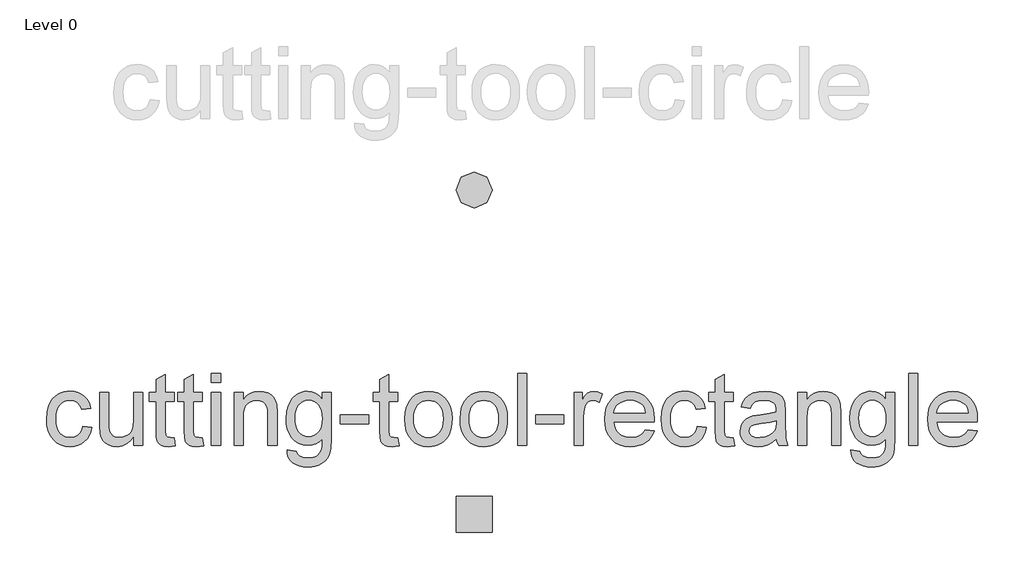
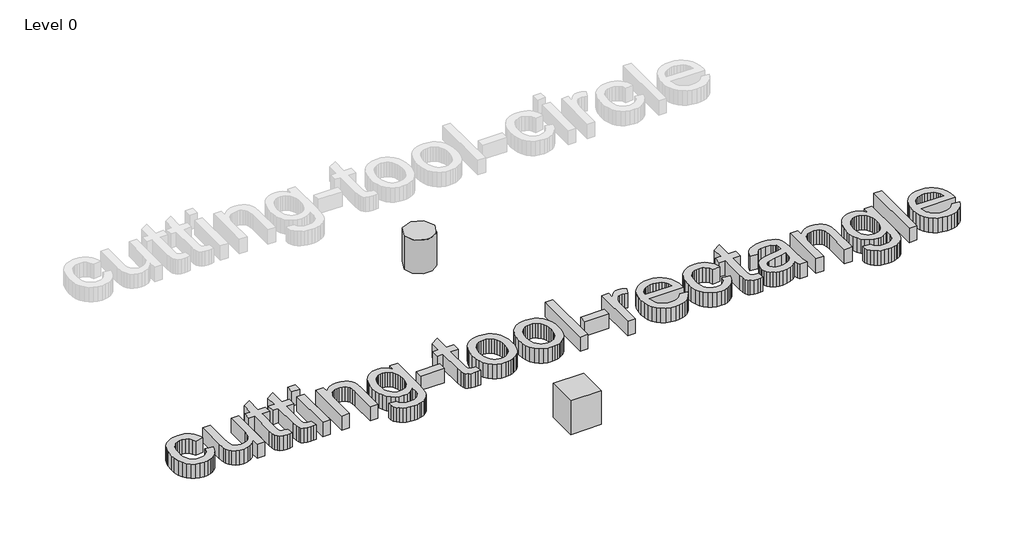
# One storey, part 4 of 5: 3 proxies.
"""IFC4 building model written with IfcOpenShell, lengths in millimetres."""

from ifc_helpers import new_model, si_unit, origin, origin_with_axes, place, context, project, spatial, polyline, outline, extrude, transform, mapped, element, save
from components import kingspan_ks_cutting_tool_circle_cutting_tool_circle_f6fe257a, kingspan_ks_cutting_tool_rectangle_cutting_tool_rectangle_f435e5aa

model = new_model("IFC4")

# Units and contexts
model_context = context("Model", 3, world=origin())
ifc_project = project(units=[si_unit("LENGTHUNIT", "METRE", prefix="MILLI")], contexts=[model_context])

# Site, building, storey
site = spatial("IfcSite", under=ifc_project)
building = spatial("IfcBuilding", under=site)
storey = spatial("IfcBuildingStorey", under=building, Name="Level 0", Elevation=0.0)

# Proxies
placement = place(None, origin())
element("IfcBuildingElementProxy", 1, Name="24\" Arial", ObjectType="24\" Arial", at=placement, inside=storey, context=model_context, shape_type="SweptSolid", body=[
    extrude(outline(polyline([(-271.9218938, 10407.1844456), (-195.7801203, 10397.666724), (-204.0616535, 10361.738254), (-217.0091011, 10329.9459034), (-234.622463, 10302.2896721), (-256.9017393, 10278.76956), (-282.9081702, 10259.9990142), (-311.7029962, 10246.5914814), (-343.2862172, 10238.5469618), (-377.6578332, 10235.8654552), (-420.362103, 10239.6065519), (-458.6514141, 10250.8298419), (-492.5257663, 10269.5353252), (-521.9851598, 10295.7230018), (-545.8305846, 10328.9002553), (-562.8630308, 10368.5744692), (-573.0824986, 10414.7456435), (-576.4889879, 10467.4137782), (-570.6705369, 10535.1717774), (-563.3974732, 10565.662877), (-553.2151841, 10593.8953766), (-540.0539595, 10619.3023026), (-523.8440898, 10641.3166814), (-504.5855748, 10659.9385128), (-482.2784146, 10675.167797), (-457.9310787, 10687.0091812), (-432.5520366, 10695.4673128), (-406.1412884, 10700.5421917), (-378.698834, 10702.233818), (-344.9174283, 10699.9101555), (-314.3612661, 10692.9391679), (-287.0303475, 10681.3208553), (-262.9246725, 10665.0552177), (-242.4532057, 10644.514041), (-226.0249117, 10620.0691113), (-213.6397904, 10591.7204285), (-205.297842, 10559.4679927), (-281.4396155, 10549.950271), (-295.2514655, 10583.1693504), (-316.7592858, 10606.9822439), (-344.7733612, 10621.3145944), (-378.1039764, 10626.0920445), (-403.9756349, 10623.740498), (-427.309854, 10616.6858586), (-448.1066335, 10604.9281263), (-466.3659736, 10588.467301), (-481.2327664, 10566.9223021), (-491.8519042, 10539.9120489), (-498.2233868, 10507.4365415), (-500.3472144, 10469.4957798), (-498.2698601, 10430.9833972), (-492.0377972, 10398.1314565), (-481.6510257, 10370.9399576), (-467.1095456, 10349.4089007), (-449.2126969, 10333.0456692), (-428.7598194, 10321.3576467), (-405.7509131, 10314.3448332), (-380.185978, 10312.0072288), (-340.7580724, 10317.844269), (-323.7070368, 10325.1405693), (-308.4312793, 10335.3553898), (-295.358354, 10348.6002661), (-284.9158146, 10364.9867342), (-277.1036612, 10384.5147941), (-271.9218938, 10407.1844456)])), origin_with_axes(), (0.0, 0.0, 1.0), 152.4),
    extrude(outline(polyline([(156.3755822, 10245.3831769), (156.3755822, 10322.2685224), (128.8262394, 10284.4671805), (96.7411073, 10257.466222), (60.1201859, 10241.2656469), (18.9634753, 10235.8654552), (-18.1221785, 10239.6576725), (-52.6425089, 10251.0343242), (-81.6046386, 10268.1364803), (-102.0156902, 10289.1052109), (-115.753183, 10314.5725522), (-124.6946364, 10345.1705403), (-129.1560685, 10415.9585953), (-129.1560685, 10692.7160963), (-53.0142949, 10692.7160963), (-53.0142949, 10451.7987661), (-51.8617583, 10403.6153), (-48.4041485, 10374.1698485), (-37.3063363, 10348.2749534), (-18.2894822, 10328.5888845), (7.3823413, 10316.1526427), (38.4450619, 10312.0072288), (71.2923553, 10316.2455892), (102.0204685, 10328.9606705), (127.3576847, 10348.9813468), (144.0322869, 10375.1364921), (153.2897584, 10410.9580736), (156.3755822, 10459.9780581), (156.3755822, 10692.7160963), (232.5173557, 10692.7160963), (232.5173557, 10245.3831769), (156.3755822, 10245.3831769)])), origin_with_axes(), (0.0, 0.0, 1.0), 152.4),
    extrude(outline(polyline([(499.0135631, 10308.8842263), (508.5312847, 10243.1524609), (478.3794399, 10237.6872067), (451.573669, 10235.8654552), (415.0271049, 10239.0256363), (387.7751908, 10248.5061794), (368.5166758, 10263.1173693), (355.9503089, 10281.6694909), (349.0350892, 10313.5315514), (346.730016, 10368.0725581), (346.730016, 10616.5743228), (289.6236859, 10616.5743228), (289.6236859, 10692.7160963), (346.730016, 10692.7160963), (346.730016, 10801.4263238), (422.8717895, 10846.1893586), (422.8717895, 10692.7160963), (499.0135631, 10692.7160963), (499.0135631, 10616.5743228), (422.8717895, 10616.5743228), (422.8717895, 10370.3032741), (426.8870784, 10331.0426721), (439.8995885, 10317.1378756), (450.8858649, 10313.2898905), (465.8502515, 10312.0072288), (499.0135631, 10308.8842263)])), origin_with_axes(), (0.0, 0.0, 1.0), 152.4),
    extrude(outline(polyline([(736.9566053, 10308.8842263), (746.474327, 10243.1524609), (716.3224821, 10237.6872067), (689.5167113, 10235.8654552), (652.9701471, 10239.0256363), (625.7182331, 10248.5061794), (606.4597181, 10263.1173693), (593.8933512, 10281.6694909), (586.9781315, 10313.5315514), (584.6730583, 10368.0725581), (584.6730583, 10616.5743228), (527.5667281, 10616.5743228), (527.5667281, 10692.7160963), (584.6730583, 10692.7160963), (584.6730583, 10801.4263238), (660.8148318, 10846.1893586), (660.8148318, 10692.7160963), (736.9566053, 10692.7160963), (736.9566053, 10616.5743228), (660.8148318, 10616.5743228), (660.8148318, 10370.3032741), (664.8301206, 10331.0426721), (677.8426307, 10317.1378756), (688.8289071, 10313.2898905), (703.7932938, 10312.0072288), (736.9566053, 10308.8842263)])), origin_with_axes(), (0.0, 0.0, 1.0), 152.4),
    extrude(outline(polyline([(813.0983788, 10778.3755915), (813.0983788, 10854.5173651), (889.2401523, 10854.5173651), (889.2401523, 10778.3755915), (813.0983788, 10778.3755915)])), origin_with_axes(), (0.0, 0.0, 1.0), 152.4),
    extrude(outline(polyline([(813.0983788, 10245.3831769), (813.0983788, 10692.7160963), (889.2401523, 10692.7160963), (889.2401523, 10245.3831769), (813.0983788, 10245.3831769)])), origin_with_axes(), (0.0, 0.0, 1.0), 152.4),
    extrude(outline(polyline([(1003.4528126, 10245.3831769), (1003.4528126, 10692.7160963), (1079.5945861, 10692.7160963), (1079.5945861, 10630.2560477), (1106.0471603, 10661.7463222), (1137.8162743, 10684.2393755), (1174.9019281, 10697.7352074), (1217.3041218, 10702.233818), (1254.8359189, 10698.6089045), (1289.2075349, 10687.7341639), (1317.8722358, 10670.9666151), (1338.2832874, 10649.6632771), (1352.132316, 10623.8799178), (1361.110948, 10593.672305), (1365.1262368, 10520.0586763), (1365.1262368, 10245.3831769), (1288.9844633, 10245.3831769), (1288.9844633, 10509.7973826), (1286.7909259, 10549.1695204), (1280.2103136, 10577.1650064), (1268.0715006, 10597.2228613), (1249.2033609, 10612.7821056), (1225.0186814, 10622.7645598), (1196.9302488, 10626.0920445), (1173.8098067, 10624.2238198), (1152.3345177, 10618.6191458), (1132.5043817, 10609.2780225), (1114.3193989, 10596.2004498), (1099.1272933, 10577.8992838), (1088.2757893, 10552.8873804), (1081.7648869, 10521.1647397), (1079.5945861, 10482.7313616), (1079.5945861, 10245.3831769), (1003.4528126, 10245.3831769)])), origin_with_axes(), (0.0, 0.0, 1.0), 152.4),
    extrude(outline(polyline([(1450.785732, 10207.3122902), (1526.9275055, 10197.7945685), (1535.3298692, 10174.0002643), (1551.6140962, 10157.6416801), (1583.6248711, 10144.9265988), (1625.5251537, 10140.6882383), (1670.2138313, 10145.4842778), (1688.2640418, 10151.4793271), (1703.4515, 10159.8723961), (1726.5022322, 10182.9231283), (1740.6301004, 10213.7070094), (1744.756925, 10246.4613563), (1745.8351044, 10302.4895071), (1720.4978883, 10277.5054876), (1692.2235627, 10259.6597595), (1661.0121277, 10248.9523226), (1626.8635833, 10245.3831769), (1585.1166624, 10249.5378855), (1548.3609686, 10262.0020113), (1516.596502, 10282.7755542), (1489.8232624, 10311.8585143), (1468.5803396, 10346.7506308), (1453.4068233, 10384.9516426), (1444.3027136, 10426.4615499), (1441.2680103, 10471.2803527), (1446.7146753, 10532.7551683), (1463.0546701, 10589.2852302), (1475.1655992, 10614.775808), (1489.7117266, 10637.1898567), (1506.6930523, 10656.5273762), (1526.1095763, 10672.7883665), (1547.6499279, 10685.6707516), (1571.0027363, 10694.8724552), (1596.1680014, 10700.3934773), (1623.1457232, 10702.233818), (1658.7535277, 10698.0698148), (1691.0710261, 10685.5778051), (1720.0982183, 10664.7577889), (1745.8351044, 10635.6097662), (1745.8351044, 10692.7160963), (1821.9768779, 10692.7160963), (1821.9768779, 10306.5047959), (1816.7718739, 10217.331923), (1810.2656188, 10184.1639641), (1801.1568617, 10158.6083237), (1789.2271783, 10137.9974371), (1774.2581444, 10119.6637398), (1756.2497598, 10103.6072318), (1735.2020247, 10089.8279131), (1711.328716, 10078.7672795), (1684.8436105, 10070.8668269), (1655.7467084, 10066.1265553), (1624.0380097, 10064.5464648), (1586.7339315, 10066.7725335), (1553.1941867, 10073.4507396), (1523.4187751, 10084.5810831), (1497.4076969, 10100.163564), (1476.3971403, 10120.2167715), (1461.623294, 10144.7592951), (1453.0861579, 10173.7911346), (1450.785732, 10207.3122902)]), holes=[polyline([(1517.4097838, 10476.4853567), (1519.4406649, 10438.8373765), (1525.533308, 10406.6453559), (1535.6877132, 10379.909295), (1549.9038806, 10358.6291936), (1567.1872824, 10342.3960872), (1586.5433912, 10330.8010112), (1607.972207, 10323.8439656), (1631.4737297, 10321.5249504), (1654.7428862, 10323.8300237), (1676.0694608, 10330.7452433), (1695.4534536, 10342.2706094), (1712.8948645, 10358.406122), (1727.3062195, 10379.4770937), (1737.6000444, 10405.8088374), (1743.7763394, 10437.4013531), (1745.8351044, 10474.2546407), (1743.7159242, 10509.5696637), (1737.3583835, 10540.2652456), (1726.7624824, 10566.3413864), (1711.9282209, 10587.7980861), (1694.1103767, 10604.5516929), (1674.5637275, 10616.5185549), (1653.2882735, 10623.6986721), (1630.2840145, 10626.0920445), (1607.6654835, 10623.7358507), (1586.8036414, 10616.6672693), (1567.6984881, 10604.8863003), (1550.3500238, 10588.3929438), (1535.9386688, 10567.2615568), (1525.6448438, 10541.5664966), (1519.4685488, 10511.3077633), (1517.4097838, 10476.4853567)])]), origin_with_axes(), (0.0, 0.0, 1.0), 152.4),
    extrude(outline(polyline([(1898.1186514, 10426.219889), (1898.1186514, 10502.3616625), (2136.0616937, 10502.3616625), (2136.0616937, 10426.219889), (1898.1186514, 10426.219889)])), origin_with_axes(), (0.0, 0.0, 1.0), 152.4),
    extrude(outline(polyline([(2383.5224576, 10308.8842263), (2393.0401793, 10243.1524609), (2362.8883344, 10237.6872067), (2336.0825636, 10235.8654552), (2299.5359994, 10239.0256363), (2272.2840854, 10248.5061794), (2253.0255704, 10263.1173693), (2240.4592035, 10281.6694909), (2233.5439838, 10313.5315514), (2231.2389106, 10368.0725581), (2231.2389106, 10616.5743228), (2174.1325804, 10616.5743228), (2174.1325804, 10692.7160963), (2231.2389106, 10692.7160963), (2231.2389106, 10801.4263238), (2307.3806841, 10846.1893586), (2307.3806841, 10692.7160963), (2383.5224576, 10692.7160963), (2383.5224576, 10616.5743228), (2307.3806841, 10616.5743228), (2307.3806841, 10370.3032741), (2311.3959729, 10331.0426721), (2324.408483, 10317.1378756), (2335.3947595, 10313.2898905), (2350.3591461, 10312.0072288), (2383.5224576, 10308.8842263)])), origin_with_axes(), (0.0, 0.0, 1.0), 152.4),
    extrude(outline(polyline([(2440.6287877, 10469.0496366), (2444.7463177, 10526.9831906), (2457.0989077, 10576.9047562), (2477.6865576, 10618.8143335), (2506.5092676, 10652.7119224), (2535.5271651, 10674.3777517), (2567.5565293, 10689.8533441), (2602.5973602, 10699.1386995), (2640.6496576, 10702.233818), (2682.6568287, 10698.4648374), (2720.6394163, 10687.1578956), (2754.5974204, 10668.3129925), (2784.530841, 10641.9301283), (2808.9618287, 10608.9015892), (2826.4125343, 10570.1196617), (2836.8829576, 10525.5843458), (2840.3730987, 10475.2956415), (2838.8301868, 10434.5386009), (2834.2014511, 10398.3731174), (2826.4868915, 10366.799191), (2815.6865081, 10339.8168218), (2801.9350733, 10316.5104867), (2785.3673595, 10295.9646627), (2765.9833667, 10278.1793498), (2743.783095, 10263.1545479), (2719.6309467, 10251.2155699), (2694.3913244, 10242.6877284), (2668.0642281, 10237.5710235), (2640.6496576, 10235.8654552), (2598.0290397, 10239.6204939), (2559.6932554, 10250.8856098), (2525.6423048, 10269.660803), (2495.8761879, 10295.9460734), (2471.7054503, 10329.2952779), (2454.4406378, 10369.2622733), (2444.0817503, 10415.8470595), (2440.6287877, 10469.0496366)]), holes=[polyline([(2516.7705613, 10469.198351), (2518.9733933, 10432.2660589), (2525.5818895, 10400.2878153), (2536.5960499, 10373.2636202), (2552.0158744, 10351.1934735), (2570.7724783, 10334.0494914), (2591.7969768, 10321.8037899), (2615.0893699, 10314.456369), (2640.6496576, 10312.0072288), (2666.0798203, 10314.470311), (2689.2792669, 10321.8595578), (2710.2479975, 10334.1749692), (2728.9860121, 10351.4165451), (2744.4058366, 10373.705116), (2755.4199969, 10401.1615124), (2762.0284931, 10433.7857342), (2764.2313252, 10471.5777815), (2762.0145511, 10507.3389477), (2755.364229, 10538.4806728), (2744.2803588, 10565.0029568), (2728.7629405, 10586.9057997), (2709.955216, 10604.0497818), (2689.0004274, 10616.2954833), (2665.8985746, 10623.6429042), (2640.6496576, 10626.0920445), (2615.0893699, 10623.6521989), (2591.7969768, 10616.3326619), (2570.7724783, 10604.1334337), (2552.0158744, 10587.0545141), (2536.5960499, 10565.0494301), (2525.5818895, 10538.0717082), (2518.9733933, 10506.1213485), (2516.7705613, 10469.198351)])]), origin_with_axes(), (0.0, 0.0, 1.0), 152.4),
    extrude(outline(polyline([(2906.9971505, 10469.0496366), (2911.1146805, 10526.9831906), (2923.4672705, 10576.9047562), (2944.0549204, 10618.8143335), (2972.8776304, 10652.7119224), (3001.8955279, 10674.3777517), (3033.9248921, 10689.8533441), (3068.965723, 10699.1386995), (3107.0180204, 10702.233818), (3149.0251915, 10698.4648374), (3187.0077791, 10687.1578956), (3220.9657832, 10668.3129925), (3250.8992038, 10641.9301283), (3275.3301915, 10608.9015892), (3292.7808971, 10570.1196617), (3303.2513204, 10525.5843458), (3306.7414615, 10475.2956415), (3305.1985496, 10434.5386009), (3300.5698138, 10398.3731174), (3292.8552543, 10366.799191), (3282.0548709, 10339.8168218), (3268.3034361, 10316.5104867), (3251.7357223, 10295.9646627), (3232.3517295, 10278.1793498), (3210.1514578, 10263.1545479), (3185.9993095, 10251.2155699), (3160.7596872, 10242.6877284), (3134.4325909, 10237.5710235), (3107.0180204, 10235.8654552), (3064.3974024, 10239.6204939), (3026.0616182, 10250.8856098), (2992.0106676, 10269.660803), (2962.2445507, 10295.9460734), (2938.0738131, 10329.2952779), (2920.8090006, 10369.2622733), (2910.450113, 10415.8470595), (2906.9971505, 10469.0496366)]), holes=[polyline([(2983.1389241, 10469.198351), (2985.3417561, 10432.2660589), (2991.9502523, 10400.2878153), (3002.9644127, 10373.2636202), (3018.3842372, 10351.1934735), (3037.1408411, 10334.0494914), (3058.1653396, 10321.8037899), (3081.4577327, 10314.456369), (3107.0180204, 10312.0072288), (3132.4481831, 10314.470311), (3155.6476297, 10321.8595578), (3176.6163603, 10334.1749692), (3195.3543749, 10351.4165451), (3210.7741993, 10373.705116), (3221.7883597, 10401.1615124), (3228.3968559, 10433.7857342), (3230.599688, 10471.5777815), (3228.3829139, 10507.3389477), (3221.7325918, 10538.4806728), (3210.6487216, 10565.0029568), (3195.1313032, 10586.9057997), (3176.3235788, 10604.0497818), (3155.3687902, 10616.2954833), (3132.2669374, 10623.6429042), (3107.0180204, 10626.0920445), (3081.4577327, 10623.6521989), (3058.1653396, 10616.3326619), (3037.1408411, 10604.1334337), (3018.3842372, 10587.0545141), (3002.9644127, 10565.0494301), (2991.9502523, 10538.0717082), (2985.3417561, 10506.1213485), (2983.1389241, 10469.198351)])]), origin_with_axes(), (0.0, 0.0, 1.0), 152.4),
    extrude(outline(polyline([(3392.4009567, 10245.3831769), (3392.4009567, 10854.5173651), (3468.5427302, 10854.5173651), (3468.5427302, 10245.3831769), (3392.4009567, 10245.3831769)])), origin_with_axes(), (0.0, 0.0, 1.0), 152.4),
    extrude(outline(polyline([(3544.6845037, 10426.219889), (3544.6845037, 10502.3616625), (3782.627546, 10502.3616625), (3782.627546, 10426.219889), (3544.6845037, 10426.219889)])), origin_with_axes(), (0.0, 0.0, 1.0), 152.4),
    extrude(outline(polyline([(3868.2870412, 10245.3831769), (3868.2870412, 10692.7160963), (3934.911093, 10692.7160963), (3934.911093, 10626.5381877), (3959.5233264, 10664.9065033), (3982.2022727, 10687.5110923), (4004.9555761, 10698.5531366), (4029.7908811, 10702.233818), (4067.7130535, 10696.3595992), (4106.2300834, 10678.7369426), (4080.7999208, 10610.4770324), (4054.0313285, 10622.1882915), (4027.2627363, 10626.0920445), (4004.5280222, 10622.3370059), (3984.2099171, 10611.07189), (3967.795565, 10593.1518046), (3956.77211, 10569.4318576), (3947.5146385, 10526.8995388), (3944.4288147, 10480.5006455), (3944.4288147, 10245.3831769), (3868.2870412, 10245.3831769)])), origin_with_axes(), (0.0, 0.0, 1.0), 152.4),
    extrude(outline(polyline([(4467.0112212, 10378.6312806), (4541.6658507, 10369.1135589), (4530.2194891, 10339.2126696), (4514.7671334, 10312.8623366), (4495.3087834, 10290.0625599), (4471.8444393, 10270.8133396), (4444.6157618, 10255.5236402), (4413.864412, 10244.6024263), (4379.5903898, 10238.049698), (4341.7936952, 10235.8654552), (4294.5489889, 10239.6344358), (4252.4535186, 10250.9413777), (4215.5072845, 10269.7862807), (4183.7102866, 10296.169145), (4158.1407042, 10329.3556931), (4139.8767167, 10368.6116478), (4128.9183243, 10413.9370089), (4125.2655268, 10465.3317766), (4128.9555029, 10518.4692911), (4140.0254311, 10565.3050329), (4158.4753116, 10605.839002), (4184.3051442, 10640.0711982), (4216.0184903, 10667.2673444), (4252.1189112, 10686.6931631), (4292.606407, 10698.3486543), (4337.4809776, 10702.233818), (4380.9102301, 10698.3579489), (4420.1847741, 10686.7303417), (4455.3046094, 10667.3509962), (4486.2697362, 10640.2199126), (4511.5465371, 10606.0620736), (4529.6013949, 10565.6024617), (4540.4343096, 10518.8410771), (4544.0452812, 10465.7779198), (4543.5991379, 10445.2553324), (4201.4073003, 10445.2553324), (4205.8176118, 10414.8711213), (4214.5871142, 10388.2605381), (4227.7158074, 10365.4235828), (4245.2036915, 10346.3602555), (4266.084123, 10331.3308063), (4289.3904581, 10320.5954854), (4315.1226968, 10314.1542929), (4343.2808393, 10312.0072288), (4383.8055136, 10315.985339), (4417.9354688, 10327.9196697), (4445.6707046, 10348.5537929), (4467.0112212, 10378.6312806)]), holes=[polyline([(4201.4073003, 10521.3971059), (4467.9035076, 10521.3971059), (4457.6050353, 10561.6243515), (4448.7472338, 10577.443846), (4437.4170553, 10590.4005882), (4416.6528071, 10606.0156003), (4393.0258065, 10617.1691804), (4366.5360538, 10623.8613285), (4337.1835488, 10626.0920445), (4310.4103092, 10624.312119), (4285.858491, 10618.9723425), (4263.5280942, 10610.0727151), (4243.4191187, 10597.6132366), (4226.5446815, 10582.1701755), (4213.9178993, 10564.3198), (4205.5387723, 10544.0621102), (4201.4073003, 10521.3971059)])]), origin_with_axes(), (0.0, 0.0, 1.0), 152.4),
    extrude(outline(polyline([(4905.7187054, 10407.1844456), (4981.8604789, 10397.666724), (4973.5789456, 10361.738254), (4960.6314981, 10329.9459034), (4943.0181362, 10302.2896721), (4920.7388599, 10278.76956), (4894.732429, 10259.9990142), (4865.937603, 10246.5914814), (4834.354382, 10238.5469618), (4799.982766, 10235.8654552), (4757.2784961, 10239.6065519), (4718.9891851, 10250.8298419), (4685.1148329, 10269.5353252), (4655.6554394, 10295.7230018), (4631.8100146, 10328.9002553), (4614.7775683, 10368.5744692), (4604.5581005, 10414.7456435), (4601.1516113, 10467.4137782), (4606.9700622, 10535.1717774), (4614.2431259, 10565.662877), (4624.4254151, 10593.8953766), (4637.5866396, 10619.3023026), (4653.7965094, 10641.3166814), (4673.0550244, 10659.9385128), (4695.3621846, 10675.167797), (4719.7095205, 10687.0091812), (4745.0885625, 10695.4673128), (4771.4993108, 10700.5421917), (4798.9417652, 10702.233818), (4832.7231709, 10699.9101555), (4863.2793331, 10692.9391679), (4890.6102516, 10681.3208553), (4914.7159266, 10665.0552177), (4935.1873935, 10644.514041), (4951.6156875, 10620.0691113), (4964.0008087, 10591.7204285), (4972.3427572, 10559.4679927), (4896.2009837, 10549.950271), (4882.3891336, 10583.1693504), (4860.8813133, 10606.9822439), (4832.867238, 10621.3145944), (4799.5366228, 10626.0920445), (4773.6649642, 10623.740498), (4750.3307452, 10616.6858586), (4729.5339656, 10604.9281263), (4711.2746255, 10588.467301), (4696.4078327, 10566.9223021), (4685.788695, 10539.9120489), (4679.4172124, 10507.4365415), (4677.2933848, 10469.4957798), (4679.3707391, 10430.9833972), (4685.602802, 10398.1314565), (4695.9895735, 10370.9399576), (4710.5310535, 10349.4089007), (4728.4279023, 10333.0456692), (4748.8807798, 10321.3576467), (4771.8896861, 10314.3448332), (4797.4546211, 10312.0072288), (4836.8825268, 10317.844269), (4853.9335624, 10325.1405693), (4869.2093198, 10335.3553898), (4882.2822452, 10348.6002661), (4892.7247845, 10364.9867342), (4900.5369379, 10384.5147941), (4905.7187054, 10407.1844456)])), origin_with_axes(), (0.0, 0.0, 1.0), 152.4),
    extrude(outline(polyline([(5210.2857994, 10308.8842263), (5219.8035211, 10243.1524609), (5189.6516762, 10237.6872067), (5162.8459054, 10235.8654552), (5126.2993412, 10239.0256363), (5099.0474272, 10248.5061794), (5079.7889122, 10263.1173693), (5067.2225453, 10281.6694909), (5060.3073256, 10313.5315514), (5058.0022524, 10368.0725581), (5058.0022524, 10616.5743228), (5000.8959223, 10616.5743228), (5000.8959223, 10692.7160963), (5058.0022524, 10692.7160963), (5058.0022524, 10801.4263238), (5134.1440259, 10846.1893586), (5134.1440259, 10692.7160963), (5210.2857994, 10692.7160963), (5210.2857994, 10616.5743228), (5134.1440259, 10616.5743228), (5134.1440259, 10370.3032741), (5138.1593147, 10331.0426721), (5151.1718249, 10317.1378756), (5162.1581013, 10313.2898905), (5177.1224879, 10312.0072288), (5210.2857994, 10308.8842263)])), origin_with_axes(), (0.0, 0.0, 1.0), 152.4),
    extrude(outline(polyline([(5571.9592236, 10302.4895071), (5535.5799632, 10271.2966614), (5498.1225233, 10250.8856098), (5458.7317963, 10239.6204939), (5416.5526742, 10235.8654552), (5382.650438, 10238.1240552), (5352.9214997, 10244.8998551), (5327.3658593, 10256.192855), (5305.9835167, 10272.0030548), (5289.0997848, 10291.3266323), (5277.0399764, 10313.1597654), (5269.8040913, 10337.5024539), (5267.3921296, 10364.354698), (5271.0356324, 10395.9193297), (5281.9661409, 10424.5840306), (5298.8266362, 10449.1219068), (5320.2600993, 10468.3060646), (5345.448601, 10482.8057188), (5373.5742122, 10493.2900841), (5439.454692, 10504.741093), (5517.3066811, 10516.7869595), (5571.5130804, 10530.9148276), (5571.9592236, 10547.8682694), (5566.717041, 10581.8495101), (5560.1643127, 10594.4344663), (5550.990493, 10604.0823131), (5535.13382, 10613.7115706), (5515.8195371, 10620.5896117), (5466.8181418, 10626.0920445), (5421.4602494, 10622.4299524), (5389.7840819, 10611.443676), (5368.1833151, 10591.1255709), (5353.0516248, 10559.4679927), (5276.9098513, 10568.9857144), (5290.1268437, 10610.6257468), (5309.8500912, 10643.3429151), (5337.9199344, 10668.3641131), (5376.1767142, 10686.9162347), (5422.9659827, 10698.4044222), (5476.6332923, 10702.233818), (5528.1070645, 10698.8505654), (5568.9105784, 10688.7008075), (5599.6758702, 10673.4389921), (5621.0349761, 10654.7195668), (5635.2000228, 10631.5758881), (5644.3831371, 10603.0413123), (5648.1009972, 10536.4172605), (5648.1009972, 10441.6861868), (5651.9675716, 10309.4047267), (5657.693076, 10276.7061477), (5667.1364405, 10245.3831769), (5590.994667, 10245.3831769), (5578.8000861, 10271.8543404), (5571.9592236, 10302.4895071)]), holes=[polyline([(5571.9592236, 10454.7730541), (5520.8014696, 10442.0951514), (5449.1211281, 10431.4248931), (5383.6124343, 10419.0815978), (5366.566046, 10410.6420555), (5353.9439112, 10399.0051536), (5346.1364051, 10385.0631784), (5343.5339031, 10369.7084165), (5349.2036396, 10347.0666489), (5366.2128493, 10328.5145273), (5394.1897461, 10316.1340534), (5432.7625439, 10312.0072288), (5473.6590043, 10316.5616073), (5509.7966038, 10330.2247429), (5539.0933409, 10350.356955), (5559.4672139, 10374.3185629), (5568.5016138, 10399.0051536), (5571.5130804, 10433.2094659), (5571.9592236, 10454.7730541)])]), origin_with_axes(), (0.0, 0.0, 1.0), 152.4),
    extrude(outline(polyline([(5752.7959357, 10245.3831769), (5752.7959357, 10692.7160963), (5828.9377093, 10692.7160963), (5828.9377093, 10630.2560477), (5855.3902834, 10661.7463222), (5887.1593974, 10684.2393755), (5924.2450513, 10697.7352074), (5966.647245, 10702.233818), (6004.179042, 10698.6089045), (6038.550658, 10687.7341639), (6067.2153589, 10670.9666151), (6087.6264105, 10649.6632771), (6101.4754391, 10623.8799178), (6110.4540711, 10593.672305), (6114.4693599, 10520.0586763), (6114.4693599, 10245.3831769), (6038.3275864, 10245.3831769), (6038.3275864, 10509.7973826), (6036.134049, 10549.1695204), (6029.5534367, 10577.1650064), (6017.4146237, 10597.2228613), (5998.5464841, 10612.7821056), (5974.3618045, 10622.7645598), (5946.273372, 10626.0920445), (5923.1529299, 10624.2238198), (5901.6776408, 10618.6191458), (5881.8475049, 10609.2780225), (5863.662522, 10596.2004498), (5848.4704164, 10577.8992838), (5837.6189124, 10552.8873804), (5831.10801, 10521.1647397), (5828.9377093, 10482.7313616), (5828.9377093, 10245.3831769), (5752.7959357, 10245.3831769)])), origin_with_axes(), (0.0, 0.0, 1.0), 152.4),
    extrude(outline(polyline([(6200.1288551, 10207.3122902), (6276.2706287, 10197.7945685), (6284.6729923, 10174.0002643), (6300.9572193, 10157.6416801), (6332.9679942, 10144.9265988), (6374.8682768, 10140.6882383), (6419.5569544, 10145.4842778), (6437.6071649, 10151.4793271), (6452.7946231, 10159.8723961), (6475.8453553, 10182.9231283), (6489.9732235, 10213.7070094), (6494.1000481, 10246.4613563), (6495.1782275, 10302.4895071), (6469.8410114, 10277.5054876), (6441.5666858, 10259.6597595), (6410.3552508, 10248.9523226), (6376.2067064, 10245.3831769), (6334.4597855, 10249.5378855), (6297.7040918, 10262.0020113), (6265.9396251, 10282.7755542), (6239.1663855, 10311.8585143), (6217.9234627, 10346.7506308), (6202.7499465, 10384.9516426), (6193.6458367, 10426.4615499), (6190.6111335, 10471.2803527), (6196.0577984, 10532.7551683), (6212.3977933, 10589.2852302), (6224.5087223, 10614.775808), (6239.0548497, 10637.1898567), (6256.0361754, 10656.5273762), (6275.4526995, 10672.7883665), (6296.993051, 10685.6707516), (6320.3458594, 10694.8724552), (6345.5111245, 10700.3934773), (6372.4888464, 10702.233818), (6408.0966509, 10698.0698148), (6440.4141492, 10685.5778051), (6469.4413414, 10664.7577889), (6495.1782275, 10635.6097662), (6495.1782275, 10692.7160963), (6571.320001, 10692.7160963), (6571.320001, 10306.5047959), (6566.114997, 10217.331923), (6559.6087419, 10184.1639641), (6550.4999848, 10158.6083237), (6538.5703015, 10137.9974371), (6523.6012675, 10119.6637398), (6505.592883, 10103.6072318), (6484.5451478, 10089.8279131), (6460.6718391, 10078.7672795), (6434.1867337, 10070.8668269), (6405.0898316, 10066.1265553), (6373.3811328, 10064.5464648), (6336.0770547, 10066.7725335), (6302.5373098, 10073.4507396), (6272.7618983, 10084.5810831), (6246.75082, 10100.163564), (6225.7402635, 10120.2167715), (6210.9664172, 10144.7592951), (6202.429281, 10173.7911346), (6200.1288551, 10207.3122902)]), holes=[polyline([(6266.752907, 10476.4853567), (6268.783788, 10438.8373765), (6274.8764312, 10406.6453559), (6285.0308364, 10379.909295), (6299.2470037, 10358.6291936), (6316.5304055, 10342.3960872), (6335.8865143, 10330.8010112), (6357.3153301, 10323.8439656), (6380.8168529, 10321.5249504), (6404.0860093, 10323.8300237), (6425.412584, 10330.7452433), (6444.7965767, 10342.2706094), (6462.2379876, 10358.406122), (6476.6493426, 10379.4770937), (6486.9431676, 10405.8088374), (6493.1194625, 10437.4013531), (6495.1782275, 10474.2546407), (6493.0590473, 10509.5696637), (6486.7015066, 10540.2652456), (6476.1056055, 10566.3413864), (6461.271344, 10587.7980861), (6443.4534998, 10604.5516929), (6423.9068507, 10616.5185549), (6402.6313966, 10623.6986721), (6379.6271376, 10626.0920445), (6357.0086067, 10623.7358507), (6336.1467645, 10616.6672693), (6317.0416113, 10604.8863003), (6299.6931469, 10588.3929438), (6285.2817919, 10567.2615568), (6274.987967, 10541.5664966), (6268.811672, 10511.3077633), (6266.752907, 10476.4853567)])]), origin_with_axes(), (0.0, 0.0, 1.0), 152.4),
    extrude(outline(polyline([(6685.5326613, 10245.3831769), (6685.5326613, 10854.5173651), (6761.6744348, 10854.5173651), (6761.6744348, 10245.3831769), (6685.5326613, 10245.3831769)])), origin_with_axes(), (0.0, 0.0, 1.0), 152.4),
    extrude(outline(polyline([(7189.0796245, 10378.6312806), (7263.734254, 10369.1135589), (7252.2878924, 10339.2126696), (7236.8355366, 10312.8623366), (7217.3771867, 10290.0625599), (7193.9128425, 10270.8133396), (7166.6841651, 10255.5236402), (7135.9328153, 10244.6024263), (7101.6587931, 10238.049698), (7063.8620985, 10235.8654552), (7016.6173921, 10239.6344358), (6974.5219218, 10250.9413777), (6937.5756877, 10269.7862807), (6905.7786898, 10296.169145), (6880.2091074, 10329.3556931), (6861.94512, 10368.6116478), (6850.9867275, 10413.9370089), (6847.33393, 10465.3317766), (6851.0239061, 10518.4692911), (6862.0938344, 10565.3050329), (6880.5437148, 10605.839002), (6906.3735474, 10640.0711982), (6938.0868935, 10667.2673444), (6974.1873144, 10686.6931631), (7014.6748102, 10698.3486543), (7059.5493808, 10702.233818), (7102.9786334, 10698.3579489), (7142.2531773, 10686.7303417), (7177.3730127, 10667.3509962), (7208.3381394, 10640.2199126), (7233.6149404, 10606.0620736), (7251.6697982, 10565.6024617), (7262.5027128, 10518.8410771), (7266.1136844, 10465.7779198), (7265.6675412, 10445.2553324), (6923.4757036, 10445.2553324), (6927.886015, 10414.8711213), (6936.6555174, 10388.2605381), (6949.7842106, 10365.4235828), (6967.2720948, 10346.3602555), (6988.1525262, 10331.3308063), (7011.4588613, 10320.5954854), (7037.1911001, 10314.1542929), (7065.3492425, 10312.0072288), (7105.8739169, 10315.985339), (7140.003872, 10327.9196697), (7167.7391079, 10348.5537929), (7189.0796245, 10378.6312806)]), holes=[polyline([(6923.4757036, 10521.3971059), (7189.9719109, 10521.3971059), (7179.6734386, 10561.6243515), (7170.815637, 10577.443846), (7159.4854586, 10590.4005882), (7138.7212103, 10606.0156003), (7115.0942098, 10617.1691804), (7088.604457, 10623.8613285), (7059.251952, 10626.0920445), (7032.4787125, 10624.312119), (7007.9268943, 10618.9723425), (6985.5964974, 10610.0727151), (6965.487522, 10597.6132366), (6948.6130847, 10582.1701755), (6935.9863026, 10564.3198), (6927.6071755, 10544.0621102), (6923.4757036, 10521.3971059)])]), origin_with_axes(), (0.0, 0.0, 1.0), 152.4),
])
kingspan_ks_cutting_tool_circle_cutting_tool_circle_shape = kingspan_ks_cutting_tool_circle_cutting_tool_circle_f6fe257a(model_context)
element("IfcBuildingElementProxy", 2, Name="kingspan-ks-cutting-tool-circle : cutting-tool-circle", ObjectType="kingspan-ks-cutting-tool-circle : cutting-tool-circle", at=placement, inside=storey, context=model_context, shape_type="MappedRepresentation", body=[
    mapped(kingspan_ks_cutting_tool_circle_cutting_tool_circle_shape, transform((3026.1244707, 12400.1399474, 0.0), x_axis=(1.0, 0.0, 0.0), y_axis=(0.0, 1.0, 0.0), z_axis=(0.0, 0.0, 1.0))),
])
kingspan_ks_cutting_tool_rectangle_cutting_tool_rectangle_shape = kingspan_ks_cutting_tool_rectangle_cutting_tool_rectangle_f435e5aa(model_context)
element("IfcBuildingElementProxy", 3, Name="kingspan-ks-cutting-tool-rectangle : cutting-tool-rectangle", ObjectType="kingspan-ks-cutting-tool-rectangle : cutting-tool-rectangle", at=placement, inside=storey, context=model_context, shape_type="MappedRepresentation", body=[
    mapped(kingspan_ks_cutting_tool_rectangle_cutting_tool_rectangle_shape, transform((3026.1244707, 9665.0134719, 0.0), x_axis=(1.0, 0.0, 0.0), y_axis=(0.0, 1.0, 0.0), z_axis=(0.0, 0.0, 1.0))),
])

save(model, "model.ifc")
